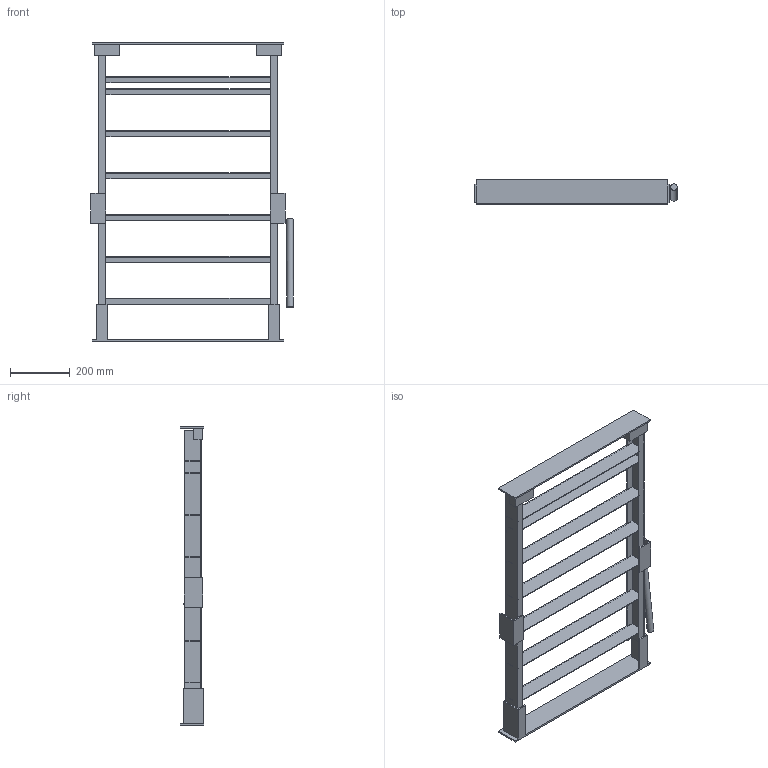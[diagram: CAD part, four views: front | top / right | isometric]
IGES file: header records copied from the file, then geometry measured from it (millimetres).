
Start section:  PTC IGES file: 51981533.igs
Global section: file name: 51981533.igs; native system: Creo Parametric by PTC Inc.; preprocessor: 2021184; author: hrl; organization: Unknown; date: 20220929.144301; units: millimetre
Bounding box: 677.5 x 80 x 1000 mm (x, y, z)
Surface area: 1347332.2 mm2 (no closed solid volume)
Topology: 0 solids, 0 shells, 166 faces, 1000 edges, 1000 vertices
Faces by surface type: bspline 164, revolution 2
